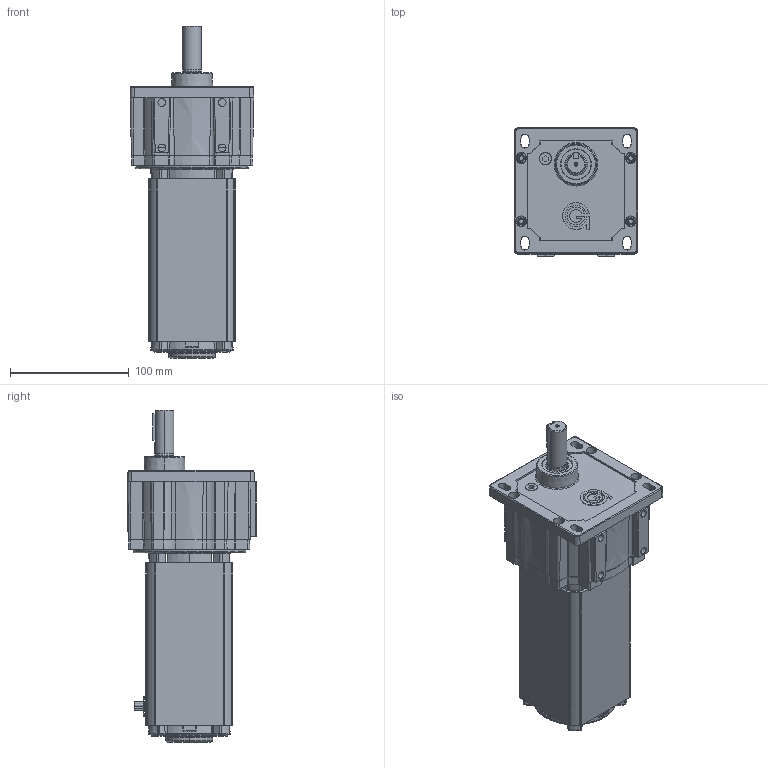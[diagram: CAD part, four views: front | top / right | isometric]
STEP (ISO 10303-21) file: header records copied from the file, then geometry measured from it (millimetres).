
FILE_DESCRIPTION (( 'STEP AP214' ), '1' );
FILE_NAME ('BL6560-PS2100.STEP', '2013-01-29T14:39:24', ( '' ), ( '' ), 'SwSTEP 2.0', 'SolidWorks 2013', '' );
FILE_SCHEMA (( 'AUTOMOTIVE_DESIGN' ));
Length unit declared in the file: inch
Products named in the file (1): BL6560-PS2100
Bounding box: 103.65 x 108.13 x 279.01 mm (x, y, z)
Surface area: 158168.3 mm2 (no closed solid volume)
Topology: 0 solids, 50 shells, 1005 faces, 3238 edges, 2257 vertices
Faces by surface type: cylinder 305, plane 248, cone 212, torus 138, bspline 94, sphere 8
Entity records: 54473 total; most frequent: CARTESIAN_POINT 13901, DIRECTION 5729, ORIENTED_EDGE 5373, EDGE_CURVE 3236, VERTEX_POINT 2257, AXIS2_PLACEMENT_3D 2237, CIRCLE 1325, VECTOR 1255
